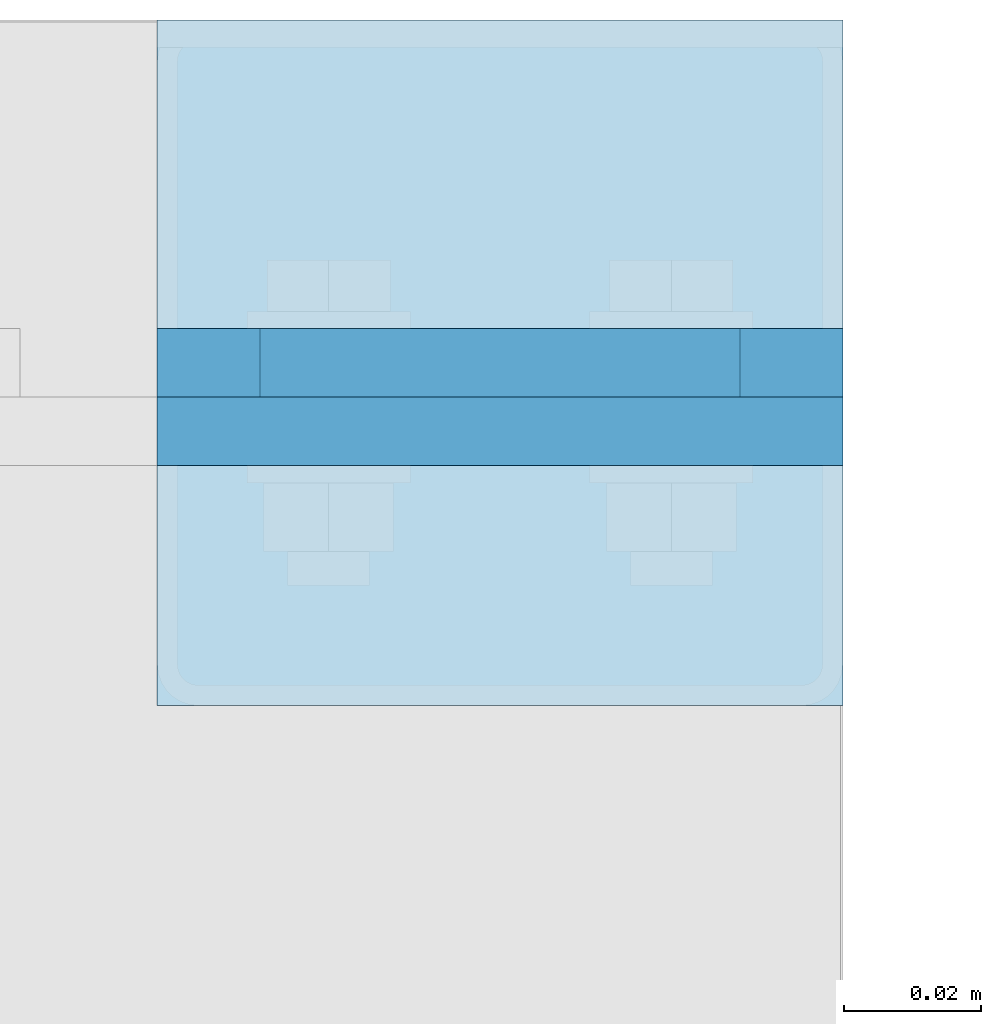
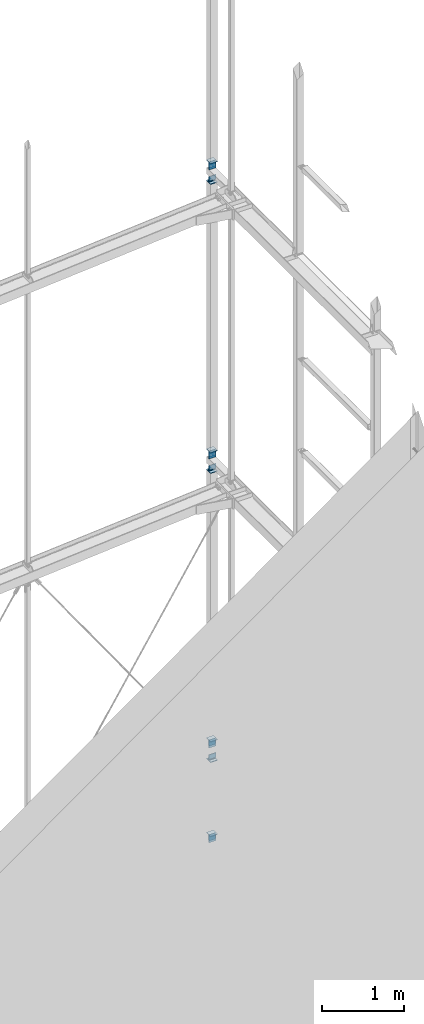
# One storey, part 197 of 271: 21 plates, 7 elements without a shape of their own.
"""IFC2X3 building model written with IfcOpenShell, lengths in millimetres."""

from ifc_helpers import new_model, si_unit, frame, origin_with_axes, place, context, subcontext, project, spatial, polyline, outline, extrude, material, type_object, element, aggregate, save


model = new_model("IFC2X3")

# Units and contexts
model_context = context("Model", 3, precision=1e-05, world=origin_with_axes())
body_context = subcontext(model_context, "Body", "Model", "MODEL_VIEW")
ifc_project = project(units=[si_unit("LENGTHUNIT", "METRE", prefix="MILLI"), si_unit("AREAUNIT", "SQUARE_METRE"), si_unit("VOLUMEUNIT", "CUBIC_METRE"), si_unit("MASSUNIT", "GRAM", prefix="KILO"), si_unit("TIMEUNIT", "SECOND"), si_unit("PLANEANGLEUNIT", "RADIAN"), si_unit("SOLIDANGLEUNIT", "STERADIAN"), si_unit("THERMODYNAMICTEMPERATUREUNIT", "DEGREE_CELSIUS"), si_unit("LUMINOUSINTENSITYUNIT", "LUMEN")], contexts=[model_context])

# Site, building, storey
site_placement = place(None, origin_with_axes())
site = spatial("IfcSite", under=ifc_project, at=site_placement, Name="Undefined", CompositionType="ELEMENT")
building_placement = place(site_placement, origin_with_axes())
building = spatial("IfcBuilding", under=site, at=building_placement, Name="Undefined", CompositionType="ELEMENT")
storey_placement = place(building_placement, origin_with_axes())
storey = spatial("IfcBuildingStorey", under=building, at=storey_placement, Name="Undefined", CompositionType="ELEMENT", Elevation=0.0)

# Assembly, plates
assembly_1_placement = place(storey_placement, origin_with_axes())
assembly_1 = element("IfcElementAssembly", 1, at=assembly_1_placement, inside=storey, AssemblyPlace="NOTDEFINED", PredefinedType="RIGID_FRAME")
ifc_material = material(Name="STEEL/S355JR")
plate_type_1 = type_object("IfcPlateType", Name="BL8*100", PredefinedType="NOTDEFINED")
plate_1_placement = place(assembly_1_placement, frame((12708.3756870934, 4859.32498425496, 113.349999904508), z_axis=(0.0, 0.0, -1.0), x_axis=(-1.0, 0.0, 1.38777878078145e-17)))
plate_1 = element("IfcPlate", 2, at=plate_1_placement, type_object=plate_type_1, material=ifc_material, Name="BLACHA", ObjectType="BL8*100", context=body_context, shape_type="SweptSolid", body=[
    extrude(outline(polyline([(0.0, 0.0), (100.0, 0.0), (100.0, 100.0), (1.59161572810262e-12, 100.0), (0.0, 0.0)])), frame((0.0, 0.0, -4.0), z_axis=(0.0, 0.0, 1.0), x_axis=(1.0, 0.0, 0.0)), (0.0, 0.0, 1.0), 8.0),
])
plate_2_placement = place(assembly_1_placement, frame((12608.3756870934, 4859.32498425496, 1220.34999990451), z_axis=(0.0, 0.0, 1.0), x_axis=(1.0, 0.0, 0.0)))
plate_2 = element("IfcPlate", 3, at=plate_2_placement, type_object=plate_type_1, material=ifc_material, Name="BLACHA", ObjectType="BL8*100", context=body_context, shape_type="SweptSolid", body=[
    extrude(outline(polyline([(0.0, 0.0), (100.0, 0.0), (100.0, 100.0), (1.59161572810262e-12, 100.0), (0.0, 0.0)])), frame((0.0, 0.0, -4.0), z_axis=(0.0, 0.0, 1.0), x_axis=(1.0, 0.0, 0.0)), (0.0, 0.0, 1.0), 8.0),
])

assembly_2_placement = place(storey_placement, origin_with_axes())
assembly_2 = element("IfcElementAssembly", 4, at=assembly_2_placement, inside=storey, AssemblyPlace="NOTDEFINED", PredefinedType="RIGID_FRAME")
plate_3_placement = place(assembly_2_placement, frame((12708.3756870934, 4859.32498425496, 1528.34999990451), z_axis=(0.0, 0.0, -1.0), x_axis=(-1.0, 0.0, 1.38777878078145e-17)))
plate_3 = element("IfcPlate", 5, at=plate_3_placement, type_object=plate_type_1, material=ifc_material, Name="BLACHA", ObjectType="BL8*100", context=body_context, shape_type="SweptSolid", body=[
    extrude(outline(polyline([(0.0, 0.0), (100.0, 0.0), (100.0, 100.0), (1.59161572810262e-12, 100.0), (0.0, 0.0)])), frame((0.0, 0.0, -4.0), z_axis=(0.0, 0.0, 1.0), x_axis=(1.0, 0.0, 0.0)), (0.0, 0.0, 1.0), 8.0),
])
plate_4_placement = place(assembly_2_placement, frame((12608.3756870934, 4859.32498425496, 5540.34999990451), z_axis=(0.0, 0.0, 1.0), x_axis=(1.0, 0.0, 0.0)))
plate_4 = element("IfcPlate", 6, at=plate_4_placement, type_object=plate_type_1, material=ifc_material, Name="BLACHA", ObjectType="BL8*100", context=body_context, shape_type="SweptSolid", body=[
    extrude(outline(polyline([(0.0, 0.0), (100.0, 0.0), (100.0, 100.0), (1.59161572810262e-12, 100.0), (0.0, 0.0)])), frame((0.0, 0.0, -4.0), z_axis=(0.0, 0.0, 1.0), x_axis=(1.0, 0.0, 0.0)), (0.0, 0.0, 1.0), 8.0),
])

assembly_3_placement = place(storey_placement, origin_with_axes())
assembly_3 = element("IfcElementAssembly", 7, at=assembly_3_placement, inside=storey, AssemblyPlace="NOTDEFINED", PredefinedType="RIGID_FRAME")
plate_5_placement = place(assembly_3_placement, frame((12708.3756870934, 4859.32498425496, 5848.34999990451), z_axis=(0.0, 0.0, -1.0), x_axis=(-1.0, 0.0, 1.38777878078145e-17)))
plate_5 = element("IfcPlate", 8, at=plate_5_placement, type_object=plate_type_1, material=ifc_material, Name="BLACHA", ObjectType="BL8*100", context=body_context, shape_type="SweptSolid", body=[
    extrude(outline(polyline([(0.0, 0.0), (100.0, 0.0), (100.0, 100.0), (1.59161572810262e-12, 100.0), (0.0, 0.0)])), frame((0.0, 0.0, -4.0), z_axis=(0.0, 0.0, 1.0), x_axis=(1.0, 0.0, 0.0)), (0.0, 0.0, 1.0), 8.0),
])
plate_6_placement = place(assembly_3_placement, frame((12608.3756870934, 4859.32498425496, 9860.34999990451), z_axis=(0.0, 0.0, 1.0), x_axis=(1.0, 0.0, 0.0)))
plate_6 = element("IfcPlate", 9, at=plate_6_placement, type_object=plate_type_1, material=ifc_material, Name="BLACHA", ObjectType="BL8*100", context=body_context, shape_type="SweptSolid", body=[
    extrude(outline(polyline([(0.0, 0.0), (100.0, 0.0), (100.0, 100.0), (1.59161572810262e-12, 100.0), (0.0, 0.0)])), frame((0.0, 0.0, -4.0), z_axis=(0.0, 0.0, 1.0), x_axis=(1.0, 0.0, 0.0)), (0.0, 0.0, 1.0), 8.0),
])

# Assembly, plate
assembly_4_placement = place(storey_placement, origin_with_axes())
assembly_4 = element("IfcElementAssembly", 10, at=assembly_4_placement, inside=storey, AssemblyPlace="NOTDEFINED", PredefinedType="RIGID_FRAME")
plate_7_placement = place(assembly_4_placement, frame((12708.3756870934, 4859.32498425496, 10168.3499999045), z_axis=(0.0, 0.0, -1.0), x_axis=(-1.0, 0.0, 1.38777878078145e-17)))
plate_7 = element("IfcPlate", 11, at=plate_7_placement, type_object=plate_type_1, material=ifc_material, Name="BLACHA", ObjectType="BL8*100", context=body_context, shape_type="SweptSolid", body=[
    extrude(outline(polyline([(0.0, 0.0), (100.0, 0.0), (100.0, 100.0), (1.59161572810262e-12, 100.0), (0.0, 0.0)])), frame((0.0, 0.0, -4.0), z_axis=(0.0, 0.0, 1.0), x_axis=(1.0, 0.0, 0.0)), (0.0, 0.0, 1.0), 8.0),
])

# Plate
plate_type_2 = type_object("IfcPlateType", Name="BL10*70", PredefinedType="NOTDEFINED")
plate_8_placement = place(assembly_1_placement, frame((12608.3756870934, 4909.32498425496, 1279.34999990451), z_axis=(0.0, 1.0, 0.0), x_axis=(0.707106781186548, 0.0, 0.707106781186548)))
plate_8 = element("IfcPlate", 12, at=plate_8_placement, type_object=plate_type_2, material=ifc_material, Name="BLACHA", ObjectType="BL10*70", context=body_context, shape_type="SweptSolid", body=[
    extrude(outline(polyline([(0.0, 0.0), (21.2132034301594, 1.09139364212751e-11), (70.7106781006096, 49.4974746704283), (70.7106781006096, 70.7106781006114), (31.8198051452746, 109.601554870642), (-38.890872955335, 38.8908729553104), (0.0, 0.0)])), frame((0.0, 0.0, -5.0), z_axis=(0.0, 0.0, 1.0), x_axis=(1.0, 0.0, 0.0)), (0.0, 0.0, 1.0), 10.0),
])

# Assembly, plate
assembly_5_placement = place(storey_placement, origin_with_axes())
assembly_5 = element("IfcElementAssembly", 13, at=assembly_5_placement, inside=storey, AssemblyPlace="NOTDEFINED", PredefinedType="RIGID_FRAME")
plate_9_placement = place(assembly_5_placement, frame((12608.3756870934, 4899.32498425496, 1314.34999990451), z_axis=(0.0, 1.0, 0.0), x_axis=(1.0, 0.0, 0.0)))
plate_9 = element("IfcPlate", 14, at=plate_9_placement, type_object=plate_type_2, material=ifc_material, Name="BLACHA", ObjectType="BL10*70", context=body_context, shape_type="SweptSolid", body=[
    extrude(outline(polyline([(0.0, 0.0), (100.0, 0.0), (100.0, 70.0), (0.0, 70.0), (0.0, 0.0)])), frame((0.0, 0.0, -5.0), z_axis=(0.0, 0.0, 1.0), x_axis=(1.0, 0.0, 0.0)), (0.0, 0.0, 1.0), 10.0),
])

# Plate
plate_10_placement = place(assembly_2_placement, frame((12608.3756870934, 4909.32498425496, 5599.34999990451), z_axis=(0.0, 1.0, 0.0), x_axis=(0.707106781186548, 0.0, 0.707106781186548)))
plate_10 = element("IfcPlate", 15, at=plate_10_placement, type_object=plate_type_2, material=ifc_material, Name="BLACHA", ObjectType="BL10*70", context=body_context, shape_type="SweptSolid", body=[
    extrude(outline(polyline([(0.0, 0.0), (21.2132034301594, 1.09139364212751e-11), (70.7106781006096, 49.4974746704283), (70.7106781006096, 70.7106781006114), (31.8198051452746, 109.601554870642), (-38.890872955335, 38.8908729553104), (0.0, 0.0)])), frame((0.0, 0.0, -5.0), z_axis=(0.0, 0.0, 1.0), x_axis=(1.0, 0.0, 0.0)), (0.0, 0.0, 1.0), 10.0),
])

# Assembly, plate
assembly_6_placement = place(storey_placement, origin_with_axes())
assembly_6 = element("IfcElementAssembly", 16, at=assembly_6_placement, inside=storey, AssemblyPlace="NOTDEFINED", PredefinedType="RIGID_FRAME")
plate_11_placement = place(assembly_6_placement, frame((12608.3756870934, 4899.32498425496, 5634.34999990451), z_axis=(0.0, 1.0, 0.0), x_axis=(1.0, 0.0, 0.0)))
plate_11 = element("IfcPlate", 17, at=plate_11_placement, type_object=plate_type_2, material=ifc_material, Name="BLACHA", ObjectType="BL10*70", context=body_context, shape_type="SweptSolid", body=[
    extrude(outline(polyline([(0.0, 0.0), (100.0, 0.0), (100.0, 70.0), (0.0, 70.0), (0.0, 0.0)])), frame((0.0, 0.0, -5.0), z_axis=(0.0, 0.0, 1.0), x_axis=(1.0, 0.0, 0.0)), (0.0, 0.0, 1.0), 10.0),
])

# Plate
plate_12_placement = place(assembly_3_placement, frame((12608.3756870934, 4909.32498425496, 9919.34999990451), z_axis=(0.0, 1.0, 0.0), x_axis=(0.707106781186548, 0.0, 0.707106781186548)))
plate_12 = element("IfcPlate", 18, at=plate_12_placement, type_object=plate_type_2, material=ifc_material, Name="BLACHA", ObjectType="BL10*70", context=body_context, shape_type="SweptSolid", body=[
    extrude(outline(polyline([(0.0, 0.0), (21.2132034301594, 1.09139364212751e-11), (70.7106781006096, 49.4974746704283), (70.7106781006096, 70.7106781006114), (31.8198051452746, 109.601554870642), (-38.890872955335, 38.8908729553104), (0.0, 0.0)])), frame((0.0, 0.0, -5.0), z_axis=(0.0, 0.0, 1.0), x_axis=(1.0, 0.0, 0.0)), (0.0, 0.0, 1.0), 10.0),
])

# Assembly, plate
assembly_7_placement = place(storey_placement, origin_with_axes())
assembly_7 = element("IfcElementAssembly", 19, at=assembly_7_placement, inside=storey, AssemblyPlace="NOTDEFINED", PredefinedType="RIGID_FRAME")
plate_13_placement = place(assembly_7_placement, frame((12608.3756870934, 4899.32498425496, 9954.34999990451), z_axis=(0.0, 1.0, 0.0), x_axis=(1.0, 0.0, 0.0)))
plate_13 = element("IfcPlate", 20, at=plate_13_placement, type_object=plate_type_2, material=ifc_material, Name="BLACHA", ObjectType="BL10*70", context=body_context, shape_type="SweptSolid", body=[
    extrude(outline(polyline([(0.0, 0.0), (100.0, 0.0), (100.0, 70.0), (0.0, 70.0), (0.0, 0.0)])), frame((0.0, 0.0, -5.0), z_axis=(0.0, 0.0, 1.0), x_axis=(1.0, 0.0, 0.0)), (0.0, 0.0, 1.0), 10.0),
])

# Plate
plate_type_3 = type_object("IfcPlateType", Name="BL10*90", PredefinedType="NOTDEFINED")
plate_14_placement = place(assembly_1_placement, frame((12708.3756870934, 4909.32498425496, 34.3499999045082), z_axis=(0.0, 1.0, 0.0), x_axis=(-0.707106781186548, 0.0, -0.707106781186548)))
plate_14 = element("IfcPlate", 21, at=plate_14_placement, type_object=plate_type_3, material=ifc_material, Name="BLACHA", ObjectType="BL10*90", context=body_context, shape_type="SweptSolid", body=[
    extrude(outline(polyline([(0.0, 0.0), (21.2132034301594, 1.09139364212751e-11), (70.7106781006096, 49.4974746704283), (70.7106781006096, 70.7106781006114), (17.6776695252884, 123.743690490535), (-53.033008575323, 53.0330085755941), (0.0, 0.0)])), frame((0.0, 0.0, -5.0), z_axis=(0.0, 0.0, 1.0), x_axis=(1.0, 0.0, 0.0)), (0.0, 0.0, 1.0), 10.0),
])

plate_15_placement = place(assembly_1_placement, frame((12708.3756870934, 4899.32498425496, -0.650000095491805), z_axis=(0.0, 1.0, 0.0), x_axis=(-1.0, 0.0, 1.38777878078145e-17)))
plate_15 = element("IfcPlate", 22, at=plate_15_placement, type_object=plate_type_3, material=ifc_material, Name="BLACHA", ObjectType="BL10*90", context=body_context, shape_type="SweptSolid", body=[
    extrude(outline(polyline([(0.0, 0.0), (100.0, 0.0), (100.0, 90.0), (0.0, 90.0), (0.0, 0.0)])), frame((0.0, 0.0, -5.0), z_axis=(0.0, 0.0, 1.0), x_axis=(1.0, 0.0, 0.0)), (0.0, 0.0, 1.0), 10.0),
])

aggregate(assembly_1, [plate_1, plate_14, plate_15, plate_2, plate_8])

plate_16_placement = place(assembly_2_placement, frame((12708.3756870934, 4909.32498425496, 1449.34999990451), z_axis=(0.0, 1.0, 0.0), x_axis=(-0.707106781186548, 0.0, -0.707106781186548)))
plate_16 = element("IfcPlate", 23, at=plate_16_placement, type_object=plate_type_3, material=ifc_material, Name="BLACHA", ObjectType="BL10*90", context=body_context, shape_type="SweptSolid", body=[
    extrude(outline(polyline([(0.0, 0.0), (21.2132034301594, 1.09139364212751e-11), (70.7106781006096, 49.4974746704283), (70.7106781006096, 70.7106781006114), (17.6776695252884, 123.743690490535), (-53.033008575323, 53.0330085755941), (0.0, 0.0)])), frame((0.0, 0.0, -5.0), z_axis=(0.0, 0.0, 1.0), x_axis=(1.0, 0.0, 0.0)), (0.0, 0.0, 1.0), 10.0),
])

aggregate(assembly_2, [plate_3, plate_16, plate_4, plate_10])

plate_17_placement = place(assembly_5_placement, frame((12708.3756870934, 4899.32498425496, 1414.34999990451), z_axis=(0.0, 1.0, 0.0), x_axis=(-1.0, 0.0, 1.38777878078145e-17)))
plate_17 = element("IfcPlate", 24, at=plate_17_placement, type_object=plate_type_3, material=ifc_material, Name="BLACHA", ObjectType="BL10*90", context=body_context, shape_type="SweptSolid", body=[
    extrude(outline(polyline([(0.0, 0.0), (100.0, 0.0), (100.0, 90.0), (0.0, 90.0), (0.0, 0.0)])), frame((0.0, 0.0, -5.0), z_axis=(0.0, 0.0, 1.0), x_axis=(1.0, 0.0, 0.0)), (0.0, 0.0, 1.0), 10.0),
])

aggregate(assembly_5, [plate_9, plate_17])

plate_18_placement = place(assembly_3_placement, frame((12708.3756870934, 4909.32498425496, 5769.34999990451), z_axis=(0.0, 1.0, 0.0), x_axis=(-0.707106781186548, 0.0, -0.707106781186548)))
plate_18 = element("IfcPlate", 25, at=plate_18_placement, type_object=plate_type_3, material=ifc_material, Name="BLACHA", ObjectType="BL10*90", context=body_context, shape_type="SweptSolid", body=[
    extrude(outline(polyline([(0.0, 0.0), (21.2132034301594, 1.09139364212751e-11), (70.7106781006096, 49.4974746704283), (70.7106781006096, 70.7106781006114), (17.6776695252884, 123.743690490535), (-53.033008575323, 53.0330085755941), (0.0, 0.0)])), frame((0.0, 0.0, -5.0), z_axis=(0.0, 0.0, 1.0), x_axis=(1.0, 0.0, 0.0)), (0.0, 0.0, 1.0), 10.0),
])

aggregate(assembly_3, [plate_5, plate_18, plate_6, plate_12])

plate_19_placement = place(assembly_6_placement, frame((12708.3756870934, 4899.32498425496, 5734.34999990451), z_axis=(0.0, 1.0, 0.0), x_axis=(-1.0, 0.0, 1.38777878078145e-17)))
plate_19 = element("IfcPlate", 26, at=plate_19_placement, type_object=plate_type_3, material=ifc_material, Name="BLACHA", ObjectType="BL10*90", context=body_context, shape_type="SweptSolid", body=[
    extrude(outline(polyline([(0.0, 0.0), (100.0, 0.0), (100.0, 90.0), (0.0, 90.0), (0.0, 0.0)])), frame((0.0, 0.0, -5.0), z_axis=(0.0, 0.0, 1.0), x_axis=(1.0, 0.0, 0.0)), (0.0, 0.0, 1.0), 10.0),
])

aggregate(assembly_6, [plate_11, plate_19])

plate_20_placement = place(assembly_4_placement, frame((12708.3756870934, 4909.32498425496, 10089.3499999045), z_axis=(0.0, 1.0, 0.0), x_axis=(-0.707106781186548, 0.0, -0.707106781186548)))
plate_20 = element("IfcPlate", 27, at=plate_20_placement, type_object=plate_type_3, material=ifc_material, Name="BLACHA", ObjectType="BL10*90", context=body_context, shape_type="SweptSolid", body=[
    extrude(outline(polyline([(0.0, 0.0), (21.2132034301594, 1.09139364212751e-11), (70.7106781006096, 49.4974746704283), (70.7106781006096, 70.7106781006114), (17.6776695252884, 123.743690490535), (-53.033008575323, 53.0330085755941), (0.0, 0.0)])), frame((0.0, 0.0, -5.0), z_axis=(0.0, 0.0, 1.0), x_axis=(1.0, 0.0, 0.0)), (0.0, 0.0, 1.0), 10.0),
])

aggregate(assembly_4, [plate_7, plate_20])

plate_21_placement = place(assembly_7_placement, frame((12708.3756870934, 4899.32498425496, 10054.3499999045), z_axis=(0.0, 1.0, 0.0), x_axis=(-1.0, 0.0, 1.38777878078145e-17)))
plate_21 = element("IfcPlate", 28, at=plate_21_placement, type_object=plate_type_3, material=ifc_material, Name="BLACHA", ObjectType="BL10*90", context=body_context, shape_type="SweptSolid", body=[
    extrude(outline(polyline([(0.0, 0.0), (100.0, 0.0), (100.0, 90.0), (0.0, 90.0), (0.0, 0.0)])), frame((0.0, 0.0, -5.0), z_axis=(0.0, 0.0, 1.0), x_axis=(1.0, 0.0, 0.0)), (0.0, 0.0, 1.0), 10.0),
])

aggregate(assembly_7, [plate_13, plate_21])

save(model, "model.ifc")
